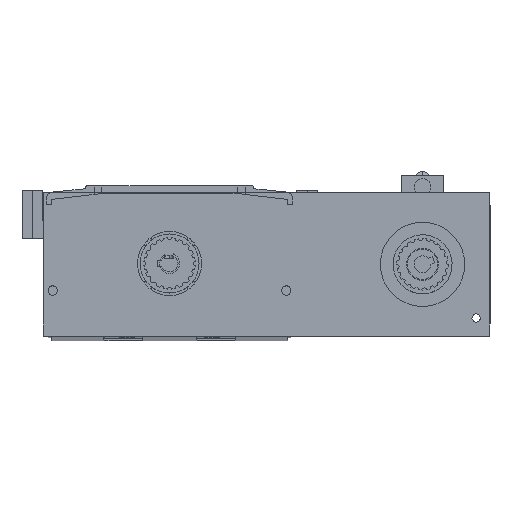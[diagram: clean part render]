
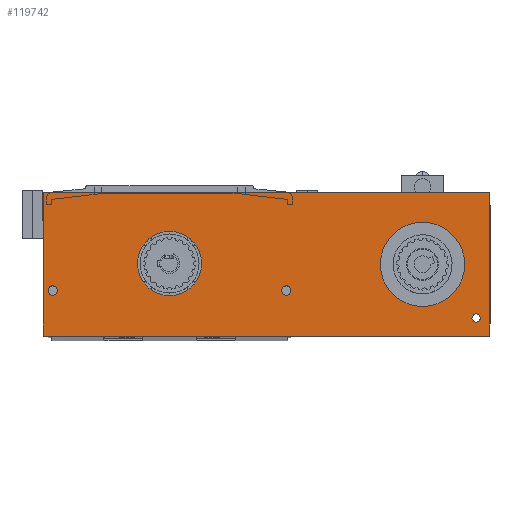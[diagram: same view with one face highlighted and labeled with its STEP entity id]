
A CAD part, top view. The second image highlights one B-rep face of the part: STEP entity #119742.
In plain terms, the highlighted planar face has unit normal (0, 0, 1).
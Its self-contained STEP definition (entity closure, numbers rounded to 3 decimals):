
#1427 = CARTESIAN_POINT ( 'NONE',  ( 0., -20.332, 10.709 ) ) ;
#4756 = EDGE_CURVE ( 'NONE', #55684, #70410, #71933, .T. ) ;
#6483 = DIRECTION ( 'NONE',  ( 0., -1., 0. ) ) ;
#7171 = CARTESIAN_POINT ( 'NONE',  ( 0., 0., 10.709 ) ) ;
#7487 = VERTEX_POINT ( 'NONE', #88668 ) ;
#8211 = EDGE_LOOP ( 'NONE', ( #73516, #98447 ) ) ;
#8586 = DIRECTION ( 'NONE',  ( 0., 0., -1. ) ) ;
#9104 = CARTESIAN_POINT ( 'NONE',  ( 212.3, -20.332, 10.709 ) ) ;
#12347 = CIRCLE ( 'NONE', #69204, 19. ) ;
#12643 = CARTESIAN_POINT ( 'NONE',  ( 203.8, 37.668, 10.709 ) ) ;
#16409 = AXIS2_PLACEMENT_3D ( 'NONE', #60316, #102557, #82528 ) ;
#17101 = CARTESIAN_POINT ( 'NONE',  ( 212.3, 0., 10.709 ) ) ;
#17334 = CARTESIAN_POINT ( 'NONE',  ( 68.05, 37.668, 10.709 ) ) ;
#17491 = EDGE_CURVE ( 'NONE', #30632, #7487, #118565, .T. ) ;
#18026 = ORIENTED_EDGE ( 'NONE', *, *, #4756, .F. ) ;
#21167 = CIRCLE ( 'NONE', #52359, 2.75 ) ;
#21570 = DIRECTION ( 'NONE',  ( 1., 0., 0. ) ) ;
#23270 = VERTEX_POINT ( 'NONE', #79500 ) ;
#23893 = AXIS2_PLACEMENT_3D ( 'NONE', #95797, #65165, #114201 ) ;
#24367 = EDGE_CURVE ( 'NONE', #104514, #98547, #12347, .T. ) ;
#24886 = FACE_BOUND ( 'NONE', #93400, .T. ) ;
#25632 = EDGE_CURVE ( 'NONE', #35507, #73981, #100693, .T. ) ;
#26427 = CIRCLE ( 'NONE', #108103, 2.75 ) ;
#26493 = ORIENTED_EDGE ( 'NONE', *, *, #44024, .T. ) ;
#26721 = DIRECTION ( 'NONE',  ( 1., 0., 0. ) ) ;
#27158 = DIRECTION ( 'NONE',  ( 1., 0., 0. ) ) ;
#30632 = VERTEX_POINT ( 'NONE', #71366 ) ;
#31054 = DIRECTION ( 'NONE',  ( 1., 0., 0. ) ) ;
#31266 = VERTEX_POINT ( 'NONE', #123749 ) ;
#32205 = CARTESIAN_POINT ( 'NONE',  ( -52.7, -20.332, 10.709 ) ) ;
#32561 = FACE_BOUND ( 'NONE', #34358, .T. ) ;
#33581 = CIRCLE ( 'NONE', #63250, 2.5 ) ;
#34358 = EDGE_LOOP ( 'NONE', ( #67705, #90123 ) ) ;
#34398 = DIRECTION ( 'NONE',  ( 1., 0., 0. ) ) ;
#35507 = VERTEX_POINT ( 'NONE', #32205 ) ;
#37009 = DIRECTION ( 'NONE',  ( 0., 0., 1. ) ) ;
#37635 = CIRCLE ( 'NONE', #96577, 25. ) ;
#39596 = AXIS2_PLACEMENT_3D ( 'NONE', #84532, #8586, #113971 ) ;
#42976 = EDGE_LOOP ( 'NONE', ( #26493, #91128 ) ) ;
#43249 = FACE_OUTER_BOUND ( 'NONE', #79929, .T. ) ;
#44024 = EDGE_CURVE ( 'NONE', #57423, #31266, #26427, .T. ) ;
#46529 = EDGE_CURVE ( 'NONE', #7487, #30632, #33581, .T. ) ;
#48251 = ORIENTED_EDGE ( 'NONE', *, *, #59653, .T. ) ;
#51514 = LINE ( 'NONE', #17101, #60670 ) ;
#52359 = AXIS2_PLACEMENT_3D ( 'NONE', #17334, #85593, #27158 ) ;
#53000 = CARTESIAN_POINT ( 'NONE',  ( -44.52, 53.988, 10.709 ) ) ;
#54910 = ORIENTED_EDGE ( 'NONE', *, *, #70695, .T. ) ;
#55684 = VERTEX_POINT ( 'NONE', #80431 ) ;
#56403 = VECTOR ( 'NONE', #108056, 1000. ) ;
#56834 = VERTEX_POINT ( 'NONE', #66509 ) ;
#57339 = CARTESIAN_POINT ( 'NONE',  ( 156.3, 21.668, 10.709 ) ) ;
#57423 = VERTEX_POINT ( 'NONE', #12643 ) ;
#58802 = ORIENTED_EDGE ( 'NONE', *, *, #25632, .T. ) ;
#59535 = CARTESIAN_POINT ( 'NONE',  ( 70.8, 37.668, 10.709 ) ) ;
#59653 = EDGE_CURVE ( 'NONE', #55684, #35507, #119609, .T. ) ;
#60316 = CARTESIAN_POINT ( 'NONE',  ( -12.7, 22.168, 10.709 ) ) ;
#60670 = VECTOR ( 'NONE', #6483, 1000. ) ;
#62848 = DIRECTION ( 'NONE',  ( 1., 0., 0. ) ) ;
#63071 = AXIS2_PLACEMENT_3D ( 'NONE', #53000, #72223, #62848 ) ;
#63250 = AXIS2_PLACEMENT_3D ( 'NONE', #105927, #114471, #115311 ) ;
#65165 = DIRECTION ( 'NONE',  ( 0., 0., 1. ) ) ;
#65193 = DIRECTION ( 'NONE',  ( 1., 0., 0. ) ) ;
#65982 = VERTEX_POINT ( 'NONE', #59535 ) ;
#66509 = CARTESIAN_POINT ( 'NONE',  ( -37.7, 22.168, 10.709 ) ) ;
#67705 = ORIENTED_EDGE ( 'NONE', *, *, #69625, .F. ) ;
#67945 = ORIENTED_EDGE ( 'NONE', *, *, #24367, .T. ) ;
#69204 = AXIS2_PLACEMENT_3D ( 'NONE', #75368, #85155, #26721 ) ;
#69394 = CARTESIAN_POINT ( 'NONE',  ( 137.3, 21.668, 10.709 ) ) ;
#69625 = EDGE_CURVE ( 'NONE', #56834, #72879, #37635, .T. ) ;
#69892 = CARTESIAN_POINT ( 'NONE',  ( -12.7, 22.168, 10.709 ) ) ;
#70346 = EDGE_CURVE ( 'NONE', #65982, #23270, #78417, .T. ) ;
#70410 = VERTEX_POINT ( 'NONE', #104374 ) ;
#70695 = EDGE_CURVE ( 'NONE', #98547, #104514, #97913, .T. ) ;
#71366 = CARTESIAN_POINT ( 'NONE',  ( -42.02, 53.988, 10.709 ) ) ;
#71933 = LINE ( 'NONE', #112712, #87135 ) ;
#72223 = DIRECTION ( 'NONE',  ( 0., 0., 1. ) ) ;
#72879 = VERTEX_POINT ( 'NONE', #93538 ) ;
#72969 = CARTESIAN_POINT ( 'NONE',  ( 118.3, 21.668, 10.709 ) ) ;
#73516 = ORIENTED_EDGE ( 'NONE', *, *, #113105, .F. ) ;
#73981 = VERTEX_POINT ( 'NONE', #9104 ) ;
#75337 = FACE_BOUND ( 'NONE', #123775, .T. ) ;
#75368 = CARTESIAN_POINT ( 'NONE',  ( 137.3, 21.668, 10.709 ) ) ;
#75506 = CIRCLE ( 'NONE', #16409, 25. ) ;
#77044 = AXIS2_PLACEMENT_3D ( 'NONE', #7171, #37009, #65193 ) ;
#78417 = CIRCLE ( 'NONE', #23893, 2.75 ) ;
#79500 = CARTESIAN_POINT ( 'NONE',  ( 65.3, 37.668, 10.709 ) ) ;
#79929 = EDGE_LOOP ( 'NONE', ( #110483, #18026, #48251, #58802 ) ) ;
#80431 = CARTESIAN_POINT ( 'NONE',  ( -52.7, 64.668, 10.709 ) ) ;
#81596 = ORIENTED_EDGE ( 'NONE', *, *, #46529, .F. ) ;
#82528 = DIRECTION ( 'NONE',  ( 1., 0., 0. ) ) ;
#84316 = CARTESIAN_POINT ( 'NONE',  ( 206.55, 37.668, 10.709 ) ) ;
#84532 = CARTESIAN_POINT ( 'NONE',  ( 206.55, 37.668, 10.709 ) ) ;
#85155 = DIRECTION ( 'NONE',  ( 0., 0., -1. ) ) ;
#85593 = DIRECTION ( 'NONE',  ( 0., 0., 1. ) ) ;
#86001 = EDGE_CURVE ( 'NONE', #72879, #56834, #75506, .T. ) ;
#87135 = VECTOR ( 'NONE', #93911, 1000. ) ;
#88668 = CARTESIAN_POINT ( 'NONE',  ( -47.02, 53.988, 10.709 ) ) ;
#89409 = DIRECTION ( 'NONE',  ( 0., 0., -1. ) ) ;
#89609 = DIRECTION ( 'NONE',  ( 0., -1., 0. ) ) ;
#90123 = ORIENTED_EDGE ( 'NONE', *, *, #86001, .F. ) ;
#91128 = ORIENTED_EDGE ( 'NONE', *, *, #91376, .T. ) ;
#91376 = EDGE_CURVE ( 'NONE', #31266, #57423, #120760, .T. ) ;
#93400 = EDGE_LOOP ( 'NONE', ( #81596, #104098 ) ) ;
#93538 = CARTESIAN_POINT ( 'NONE',  ( 12.3, 22.168, 10.709 ) ) ;
#93911 = DIRECTION ( 'NONE',  ( 1., 0., 0. ) ) ;
#95797 = CARTESIAN_POINT ( 'NONE',  ( 68.05, 37.668, 10.709 ) ) ;
#96056 = EDGE_CURVE ( 'NONE', #70410, #73981, #51514, .T. ) ;
#96577 = AXIS2_PLACEMENT_3D ( 'NONE', #69892, #98871, #31054 ) ;
#97913 = CIRCLE ( 'NONE', #110569, 19. ) ;
#98447 = ORIENTED_EDGE ( 'NONE', *, *, #70346, .F. ) ;
#98547 = VERTEX_POINT ( 'NONE', #57339 ) ;
#98871 = DIRECTION ( 'NONE',  ( 0., 0., 1. ) ) ;
#99624 = FACE_BOUND ( 'NONE', #42976, .T. ) ;
#100693 = LINE ( 'NONE', #1427, #56403 ) ;
#102557 = DIRECTION ( 'NONE',  ( 0., 0., 1. ) ) ;
#104098 = ORIENTED_EDGE ( 'NONE', *, *, #17491, .F. ) ;
#104374 = CARTESIAN_POINT ( 'NONE',  ( 212.3, 64.668, 10.709 ) ) ;
#104403 = PLANE ( 'NONE',  #77044 ) ;
#104514 = VERTEX_POINT ( 'NONE', #72969 ) ;
#105927 = CARTESIAN_POINT ( 'NONE',  ( -44.52, 53.988, 10.709 ) ) ;
#108056 = DIRECTION ( 'NONE',  ( 1., 0., 0. ) ) ;
#108103 = AXIS2_PLACEMENT_3D ( 'NONE', #84316, #123086, #34398 ) ;
#110483 = ORIENTED_EDGE ( 'NONE', *, *, #96056, .F. ) ;
#110569 = AXIS2_PLACEMENT_3D ( 'NONE', #69394, #89409, #21570 ) ;
#112712 = CARTESIAN_POINT ( 'NONE',  ( 0., 64.668, 10.709 ) ) ;
#113105 = EDGE_CURVE ( 'NONE', #23270, #65982, #21167, .T. ) ;
#113971 = DIRECTION ( 'NONE',  ( 1., 0., 0. ) ) ;
#114201 = DIRECTION ( 'NONE',  ( 1., 0., 0. ) ) ;
#114471 = DIRECTION ( 'NONE',  ( 0., 0., 1. ) ) ;
#115010 = VECTOR ( 'NONE', #89609, 1000. ) ;
#115311 = DIRECTION ( 'NONE',  ( 1., 0., 0. ) ) ;
#118565 = CIRCLE ( 'NONE', #63071, 2.5 ) ;
#119438 = CARTESIAN_POINT ( 'NONE',  ( -52.7, 0., 10.709 ) ) ;
#119609 = LINE ( 'NONE', #119438, #115010 ) ;
#119742 = ADVANCED_FACE ( 'NONE', ( #75337, #24886, #32561, #43249, #125578, #99624 ), #104403, .T. ) ;
#120760 = CIRCLE ( 'NONE', #39596, 2.75 ) ;
#123086 = DIRECTION ( 'NONE',  ( 0., 0., -1. ) ) ;
#123749 = CARTESIAN_POINT ( 'NONE',  ( 209.3, 37.668, 10.709 ) ) ;
#123775 = EDGE_LOOP ( 'NONE', ( #67945, #54910 ) ) ;
#125578 = FACE_BOUND ( 'NONE', #8211, .T. ) ;
